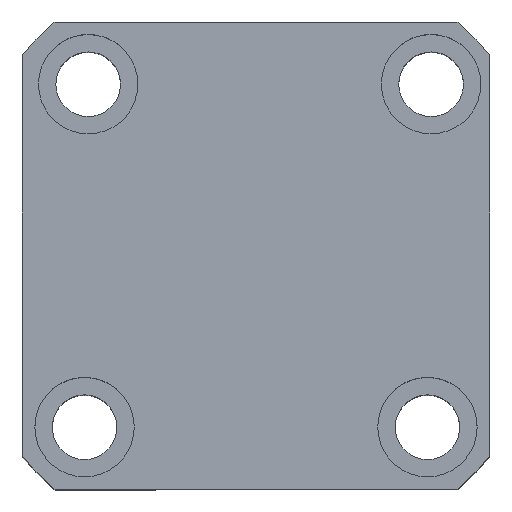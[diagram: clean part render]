
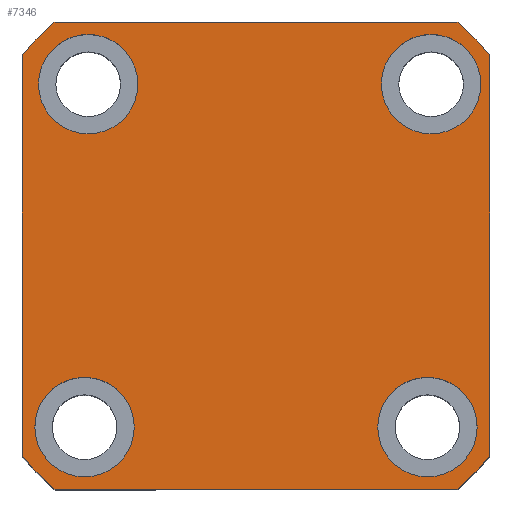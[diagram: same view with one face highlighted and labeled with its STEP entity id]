
A CAD part, top view. The second image highlights one B-rep face of the part: STEP entity #7346.
In plain terms, the highlighted planar face has unit normal (0, 0, 1) as drawn and (0, 0, -1) by its records, which use the part's own axes.
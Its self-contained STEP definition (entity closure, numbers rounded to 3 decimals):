
#239 = DIRECTION ( 'NONE',  ( 0., 0., 1. ) ) ;
#343 = VERTEX_POINT ( 'NONE', #11843 ) ;
#379 = ORIENTED_EDGE ( 'NONE', *, *, #13153, .F. ) ;
#507 = EDGE_CURVE ( 'NONE', #9489, #14193, #10481, .T. ) ;
#616 = AXIS2_PLACEMENT_3D ( 'NONE', #9723, #1502, #11109 ) ;
#682 = CARTESIAN_POINT ( 'NONE',  ( -47., 47., 0. ) ) ;
#683 = DIRECTION ( 'NONE',  ( 0., 0., -1. ) ) ;
#1131 = VERTEX_POINT ( 'NONE', #3568 ) ;
#1142 = DIRECTION ( 'NONE',  ( 0., -1., 0. ) ) ;
#1230 = EDGE_CURVE ( 'NONE', #11757, #2473, #16081, .T. ) ;
#1349 = DIRECTION ( 'NONE',  ( 1., 0., 0. ) ) ;
#1419 = EDGE_LOOP ( 'NONE', ( #16832, #10147 ) ) ;
#1421 = CARTESIAN_POINT ( 'NONE',  ( -24.5, 34.5, 0. ) ) ;
#1422 = DIRECTION ( 'NONE',  ( 0., 0., 1. ) ) ;
#1442 = EDGE_CURVE ( 'NONE', #2748, #5007, #3400, .T. ) ;
#1502 = DIRECTION ( 'NONE',  ( 0., 0., -1. ) ) ;
#1714 = VERTEX_POINT ( 'NONE', #10240 ) ;
#1716 = FACE_BOUND ( 'NONE', #9091, .T. ) ;
#2061 = ORIENTED_EDGE ( 'NONE', *, *, #507, .F. ) ;
#2191 = ORIENTED_EDGE ( 'NONE', *, *, #10205, .F. ) ;
#2473 = VERTEX_POINT ( 'NONE', #4586 ) ;
#2485 = EDGE_CURVE ( 'NONE', #1714, #9785, #17362, .T. ) ;
#2528 = CARTESIAN_POINT ( 'NONE',  ( -47., 47., 0. ) ) ;
#2541 = DIRECTION ( 'NONE',  ( 0., 0., -1. ) ) ;
#2736 = EDGE_LOOP ( 'NONE', ( #379, #6826 ) ) ;
#2748 = VERTEX_POINT ( 'NONE', #17201 ) ;
#2833 = LINE ( 'NONE', #2528, #13373 ) ;
#3077 = EDGE_CURVE ( 'NONE', #15103, #9542, #2833, .T. ) ;
#3247 = CIRCLE ( 'NONE', #17561, 62. ) ;
#3400 = CIRCLE ( 'NONE', #15665, 10. ) ;
#3484 = CIRCLE ( 'NONE', #5067, 10. ) ;
#3568 = CARTESIAN_POINT ( 'NONE',  ( 40.435, -47., 0. ) ) ;
#3569 = CARTESIAN_POINT ( 'NONE',  ( -47., -40.435, 0. ) ) ;
#3732 = ORIENTED_EDGE ( 'NONE', *, *, #14655, .F. ) ;
#3826 = VECTOR ( 'NONE', #10918, 1000. ) ;
#3880 = EDGE_CURVE ( 'NONE', #343, #12069, #3484, .T. ) ;
#3961 = AXIS2_PLACEMENT_3D ( 'NONE', #8474, #239, #9828 ) ;
#4518 = FACE_OUTER_BOUND ( 'NONE', #8134, .T. ) ;
#4586 = CARTESIAN_POINT ( 'NONE',  ( 47., 40.435, 0. ) ) ;
#4612 = DIRECTION ( 'NONE',  ( 0., 0., -1. ) ) ;
#4658 = VERTEX_POINT ( 'NONE', #16853 ) ;
#4804 = CARTESIAN_POINT ( 'NONE',  ( 47., -40.435, 0. ) ) ;
#4834 = EDGE_LOOP ( 'NONE', ( #14795, #7170 ) ) ;
#4950 = FACE_BOUND ( 'NONE', #2736, .T. ) ;
#5007 = VERTEX_POINT ( 'NONE', #11592 ) ;
#5067 = AXIS2_PLACEMENT_3D ( 'NONE', #12846, #4612, #14230 ) ;
#5106 = VERTEX_POINT ( 'NONE', #14719 ) ;
#5598 = DIRECTION ( 'NONE',  ( 0., 0., 1. ) ) ;
#5657 = DIRECTION ( 'NONE',  ( 0., 0., -1. ) ) ;
#5704 = DIRECTION ( 'NONE',  ( 0., 0., -1. ) ) ;
#5957 = EDGE_CURVE ( 'NONE', #9542, #5106, #3247, .T. ) ;
#6142 = DIRECTION ( 'NONE',  ( 0., 0., 1. ) ) ;
#6242 = CIRCLE ( 'NONE', #13397, 62. ) ;
#6246 = CARTESIAN_POINT ( 'NONE',  ( -47., 40.435, 0. ) ) ;
#6826 = ORIENTED_EDGE ( 'NONE', *, *, #10098, .F. ) ;
#7170 = ORIENTED_EDGE ( 'NONE', *, *, #17565, .F. ) ;
#7346 = ADVANCED_FACE ( 'NONE', ( #1716, #8172, #15481, #4950, #4518 ), #15984, .F. ) ;
#7362 = CARTESIAN_POINT ( 'NONE',  ( 34.5, 34.5, 0. ) ) ;
#7555 = CIRCLE ( 'NONE', #3961, 62. ) ;
#7592 = CARTESIAN_POINT ( 'NONE',  ( 40.435, 47., 0. ) ) ;
#7601 = ORIENTED_EDGE ( 'NONE', *, *, #3077, .F. ) ;
#7751 = CARTESIAN_POINT ( 'NONE',  ( 0., 0., 0. ) ) ;
#7872 = AXIS2_PLACEMENT_3D ( 'NONE', #10760, #2541, #12161 ) ;
#8134 = EDGE_LOOP ( 'NONE', ( #3732, #15755, #8664, #13707, #12721, #7601, #2191, #2061 ) ) ;
#8172 = FACE_BOUND ( 'NONE', #4834, .T. ) ;
#8363 = CIRCLE ( 'NONE', #17398, 62. ) ;
#8474 = CARTESIAN_POINT ( 'NONE',  ( 0., 0., 0. ) ) ;
#8664 = ORIENTED_EDGE ( 'NONE', *, *, #16767, .F. ) ;
#8739 = DIRECTION ( 'NONE',  ( -1., 0., 0. ) ) ;
#8830 = CIRCLE ( 'NONE', #16500, 10. ) ;
#8922 = CARTESIAN_POINT ( 'NONE',  ( -33.77, -34.5, 0. ) ) ;
#9064 = CIRCLE ( 'NONE', #616, 10. ) ;
#9091 = EDGE_LOOP ( 'NONE', ( #13429, #17281 ) ) ;
#9123 = DIRECTION ( 'NONE',  ( 1., 0., 0. ) ) ;
#9429 = CARTESIAN_POINT ( 'NONE',  ( 24.5, 34.5, 0. ) ) ;
#9489 = VERTEX_POINT ( 'NONE', #7592 ) ;
#9542 = VERTEX_POINT ( 'NONE', #3569 ) ;
#9639 = CARTESIAN_POINT ( 'NONE',  ( 0., 0., 0. ) ) ;
#9723 = CARTESIAN_POINT ( 'NONE',  ( -34.5, 34.5, 0. ) ) ;
#9785 = VERTEX_POINT ( 'NONE', #9429 ) ;
#9828 = DIRECTION ( 'NONE',  ( 1., 0., 0. ) ) ;
#10098 = EDGE_CURVE ( 'NONE', #10993, #4658, #13305, .T. ) ;
#10147 = ORIENTED_EDGE ( 'NONE', *, *, #2485, .F. ) ;
#10205 = EDGE_CURVE ( 'NONE', #14193, #15103, #8363, .T. ) ;
#10240 = CARTESIAN_POINT ( 'NONE',  ( 44.5, 34.5, 0. ) ) ;
#10289 = DIRECTION ( 'NONE',  ( -1., 0., 0. ) ) ;
#10308 = CIRCLE ( 'NONE', #7872, 10. ) ;
#10346 = AXIS2_PLACEMENT_3D ( 'NONE', #7362, #16958, #8739 ) ;
#10481 = LINE ( 'NONE', #682, #14155 ) ;
#10760 = CARTESIAN_POINT ( 'NONE',  ( 34.5, 34.5, 0. ) ) ;
#10774 = VECTOR ( 'NONE', #1349, 1000. ) ;
#10918 = DIRECTION ( 'NONE',  ( 0., 1., 0. ) ) ;
#10952 = CARTESIAN_POINT ( 'NONE',  ( -47., -47., 0. ) ) ;
#10993 = VERTEX_POINT ( 'NONE', #1421 ) ;
#11029 = DIRECTION ( 'NONE',  ( 1., 0., 0. ) ) ;
#11109 = DIRECTION ( 'NONE',  ( -1., 0., 0. ) ) ;
#11592 = CARTESIAN_POINT ( 'NONE',  ( -23.77, -34.5, 0. ) ) ;
#11757 = VERTEX_POINT ( 'NONE', #4804 ) ;
#11843 = CARTESIAN_POINT ( 'NONE',  ( 25.23, -34.5, 0. ) ) ;
#12069 = VERTEX_POINT ( 'NONE', #12321 ) ;
#12161 = DIRECTION ( 'NONE',  ( -1., 0., 0. ) ) ;
#12321 = CARTESIAN_POINT ( 'NONE',  ( 45.23, -34.5, 0. ) ) ;
#12509 = DIRECTION ( 'NONE',  ( -1., 0., 0. ) ) ;
#12570 = DIRECTION ( 'NONE',  ( 0., 0., -1. ) ) ;
#12624 = EDGE_CURVE ( 'NONE', #5106, #1131, #14448, .T. ) ;
#12721 = ORIENTED_EDGE ( 'NONE', *, *, #5957, .F. ) ;
#12846 = CARTESIAN_POINT ( 'NONE',  ( 35.23, -34.5, 0. ) ) ;
#13058 = AXIS2_PLACEMENT_3D ( 'NONE', #13935, #5704, #15319 ) ;
#13153 = EDGE_CURVE ( 'NONE', #4658, #10993, #9064, .T. ) ;
#13305 = CIRCLE ( 'NONE', #14631, 10. ) ;
#13373 = VECTOR ( 'NONE', #1142, 1000. ) ;
#13397 = AXIS2_PLACEMENT_3D ( 'NONE', #13833, #5598, #15210 ) ;
#13429 = ORIENTED_EDGE ( 'NONE', *, *, #1442, .F. ) ;
#13707 = ORIENTED_EDGE ( 'NONE', *, *, #12624, .F. ) ;
#13833 = CARTESIAN_POINT ( 'NONE',  ( 0., 0., 0. ) ) ;
#13886 = CARTESIAN_POINT ( 'NONE',  ( -33.77, -34.5, 0. ) ) ;
#13888 = CARTESIAN_POINT ( 'NONE',  ( -34.5, 34.5, 0. ) ) ;
#13935 = CARTESIAN_POINT ( 'NONE',  ( 35.23, -34.5, 0. ) ) ;
#14113 = AXIS2_PLACEMENT_3D ( 'NONE', #7751, #17364, #9123 ) ;
#14155 = VECTOR ( 'NONE', #17339, 1000. ) ;
#14193 = VERTEX_POINT ( 'NONE', #17612 ) ;
#14230 = DIRECTION ( 'NONE',  ( -1., 0., 0. ) ) ;
#14374 = CARTESIAN_POINT ( 'NONE',  ( 0., 0., 0. ) ) ;
#14448 = LINE ( 'NONE', #10952, #10774 ) ;
#14631 = AXIS2_PLACEMENT_3D ( 'NONE', #13888, #5657, #15267 ) ;
#14655 = EDGE_CURVE ( 'NONE', #2473, #9489, #7555, .T. ) ;
#14719 = CARTESIAN_POINT ( 'NONE',  ( -40.435, -47., 0. ) ) ;
#14795 = ORIENTED_EDGE ( 'NONE', *, *, #3880, .F. ) ;
#15103 = VERTEX_POINT ( 'NONE', #6246 ) ;
#15210 = DIRECTION ( 'NONE',  ( 1., 0., 0. ) ) ;
#15267 = DIRECTION ( 'NONE',  ( -1., 0., 0. ) ) ;
#15319 = DIRECTION ( 'NONE',  ( -1., 0., 0. ) ) ;
#15481 = FACE_BOUND ( 'NONE', #1419, .T. ) ;
#15665 = AXIS2_PLACEMENT_3D ( 'NONE', #13886, #12570, #12509 ) ;
#15755 = ORIENTED_EDGE ( 'NONE', *, *, #1230, .F. ) ;
#15759 = DIRECTION ( 'NONE',  ( 1., 0., 0. ) ) ;
#15984 = PLANE ( 'NONE',  #14113 ) ;
#16066 = EDGE_CURVE ( 'NONE', #5007, #2748, #8830, .T. ) ;
#16081 = LINE ( 'NONE', #17264, #3826 ) ;
#16116 = CIRCLE ( 'NONE', #13058, 10. ) ;
#16500 = AXIS2_PLACEMENT_3D ( 'NONE', #8922, #683, #10289 ) ;
#16535 = EDGE_CURVE ( 'NONE', #9785, #1714, #10308, .T. ) ;
#16767 = EDGE_CURVE ( 'NONE', #1131, #11757, #6242, .T. ) ;
#16832 = ORIENTED_EDGE ( 'NONE', *, *, #16535, .F. ) ;
#16853 = CARTESIAN_POINT ( 'NONE',  ( -44.5, 34.5, 0. ) ) ;
#16958 = DIRECTION ( 'NONE',  ( 0., 0., -1. ) ) ;
#17201 = CARTESIAN_POINT ( 'NONE',  ( -43.77, -34.5, 0. ) ) ;
#17264 = CARTESIAN_POINT ( 'NONE',  ( 47., 47., 0. ) ) ;
#17281 = ORIENTED_EDGE ( 'NONE', *, *, #16066, .F. ) ;
#17339 = DIRECTION ( 'NONE',  ( -1., 0., 0. ) ) ;
#17362 = CIRCLE ( 'NONE', #10346, 10. ) ;
#17364 = DIRECTION ( 'NONE',  ( 0., 0., 1. ) ) ;
#17398 = AXIS2_PLACEMENT_3D ( 'NONE', #14374, #6142, #15759 ) ;
#17561 = AXIS2_PLACEMENT_3D ( 'NONE', #9639, #1422, #11029 ) ;
#17565 = EDGE_CURVE ( 'NONE', #12069, #343, #16116, .T. ) ;
#17612 = CARTESIAN_POINT ( 'NONE',  ( -40.435, 47., 0. ) ) ;
